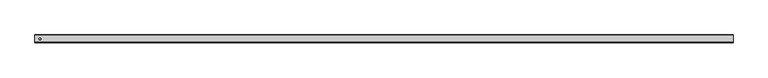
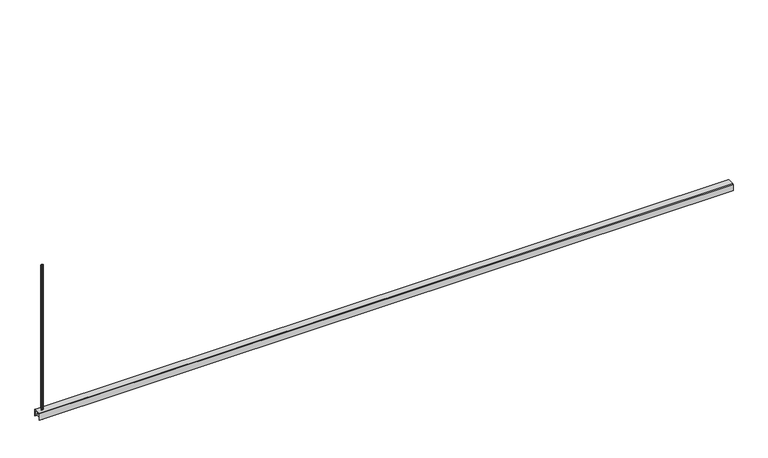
"""IFC4 building model written with IfcOpenShell, lengths in millimetres: proxy geometry, Beared-Hanger : BearedHanger."""

from ifc_helpers import new_model, si_unit, frame, origin, place, context, project, spatial, polyline, outline, extrude, source, transform, mapped, element, save


def mechanical_equipment_ec24bd99(model_context):
    return source(origin(), model_context, "Body", "SweptSolid", [
        extrude(outline(polyline([(-1710.7278442, 16.7883301), (-1710.7278442, -17.3962402), (-1740.5447388, -17.3962402), (-1740.5447388, 16.7883301), (-1710.7278442, 16.7883301)])), frame((0.0, 0.0, -808.5397865), z_axis=(0.0, 0.0, 1.0), x_axis=(1.0, 0.0, 0.0)), (0.0, 0.0, 1.0), 10.0),
        extrude(outline(polyline([(-1725.6362915, 5.0), (-1722.1011353, 3.5351563), (-1720.6362915, 0.0), (-1722.1011353, -3.5351562), (-1725.6362915, -5.0), (-1729.1714478, -3.5351562), (-1730.6369019, 0.0), (-1729.1714478, 3.5351563), (-1725.6362915, 5.0)])), frame((0.0, 0.0, -822.1243812), z_axis=(0.0, 0.0, 1.0), x_axis=(1.0, 0.0, 0.0)), (0.0, 0.0, 1.0), 822.1243812),
        extrude(outline(polyline([(-17.8259277, -772.1243812), (17.1740723, -772.1243812), (19.6740723, -774.624076), (19.6740723, -808.5397865), (16.7883301, -808.5397865), (16.7883301, -775.1242591), (-17.3962402, -775.1242591), (-17.3962402, -808.5397865), (-20.3259277, -808.5397865), (-20.3259277, -774.624076), (-17.8259277, -772.1243812)])), frame((-1750.2468872, 0.0, 0.0), z_axis=(1.0, 0.0, 0.0), x_axis=(0.0, 1.0, 0.0)), (0.0, 0.0, 1.0), 3500.4937744),
    ])


if __name__ == "__main__":
    model = new_model("IFC4")
    model_context = context("Model", 3, world=origin())
    ifc_project = project(units=[si_unit("LENGTHUNIT", "METRE", prefix="MILLI")], contexts=[model_context])
    site = spatial("IfcSite", under=ifc_project)
    building = spatial("IfcBuilding", under=site)
    placement = place(None, origin())
    mechanical_equipment_shape = mechanical_equipment_ec24bd99(model_context)
    element("IfcBuildingElementProxy", 1, Name="Beared-Hanger : BearedHanger", ObjectType="Beared-Hanger : BearedHanger", at=placement, inside=building, context=model_context, shape_type="MappedRepresentation", body=[
        mapped(mechanical_equipment_shape, transform((0.0, 0.0, 0.0), x_axis=(1.0, 0.0, 0.0), y_axis=(0.0, 1.0, 0.0), z_axis=(0.0, 0.0, 1.0))),
    ])
    save(model, "model.ifc")
